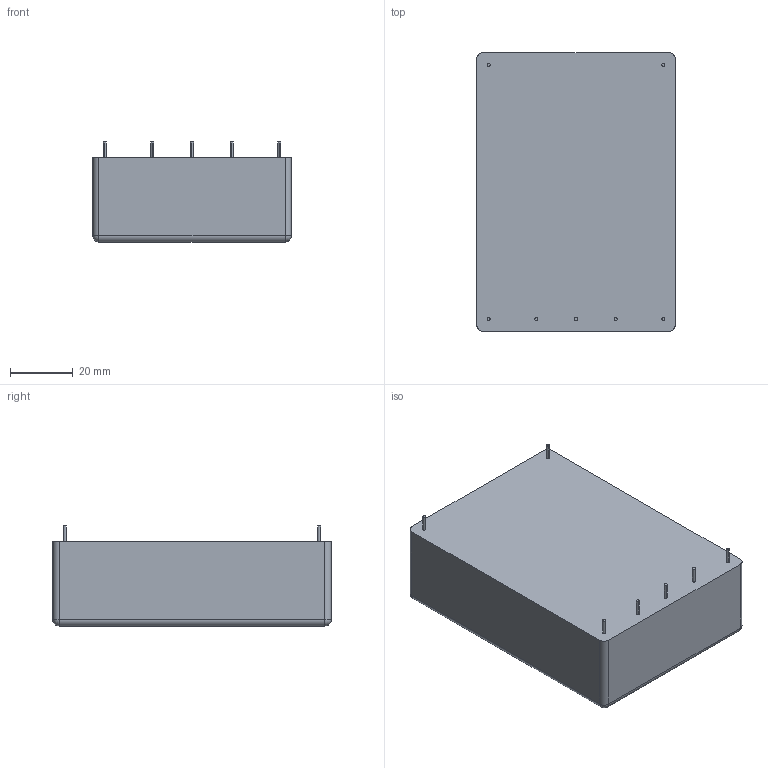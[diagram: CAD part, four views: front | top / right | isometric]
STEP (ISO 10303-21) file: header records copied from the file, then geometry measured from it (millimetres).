
FILE_DESCRIPTION(/* description */ ('VariCAD 2010-1.04 AP-203'),/* implementation_level */ '2;1');
FILE_NAME(/* name */ '0353-02-40',/* time_stamp */ '2010-01-25T18:17:32-07:00',/* author */ (''),/* organization */ (''),/* preprocessor_version */ 'ST-DEVELOPER v12',/* originating_system */ 'VariCAD 2010-1.04; kernel version (20090520)',/* authorisation */ '');
FILE_SCHEMA (('CONFIG_CONTROL_DESIGN'));
Length unit declared in the file: millimetre
Products named in the file (1): Part
Bounding box: 63.5 x 89 x 32 mm (x, y, z)
Volume: 152268.8 mm3; surface area: 19287.7 mm2
Topology: 1 solids, 1 shells, 39 faces, 82 edges, 48 vertices
Faces by surface type: cylinder 22, plane 13, sphere 4
Entity records: 1066 total; most frequent: DIRECTION 204, CARTESIAN_POINT 167, ORIENTED_EDGE 156, AXIS2_PLACEMENT_3D 85, EDGE_CURVE 78, VERTEX_POINT 48, EDGE_LOOP 46, CIRCLE 44
